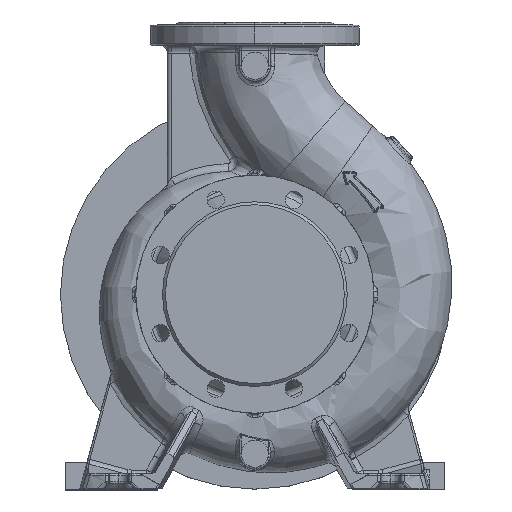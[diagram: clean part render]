
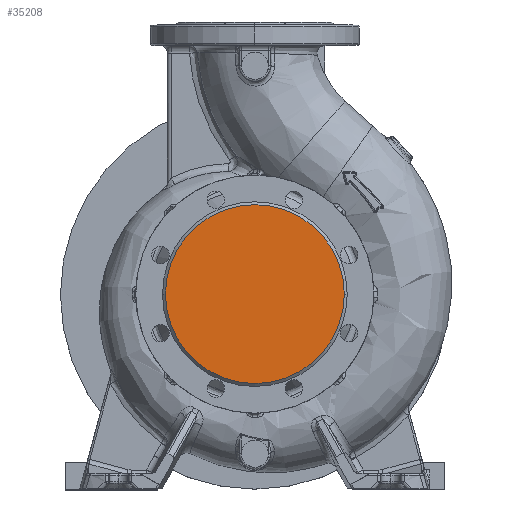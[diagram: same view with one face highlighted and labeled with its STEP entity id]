
A CAD part, top view. The second image highlights one B-rep face of the part: STEP entity #35208.
In plain terms, the highlighted planar face has unit normal (0, 0, 1).
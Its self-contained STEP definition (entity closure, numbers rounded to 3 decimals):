
#652 = DIRECTION ( 'NONE',  ( 0., 0., 1. ) ) ;
#2620 = AXIS2_PLACEMENT_3D ( 'NONE', #29247, #79129, #37023 ) ;
#4676 = DIRECTION ( 'NONE',  ( 0., 0., 1. ) ) ;
#6614 = CIRCLE ( 'NONE', #2620, 92. ) ;
#9255 = CARTESIAN_POINT ( 'NONE',  ( 92., 0., 125. ) ) ;
#9902 = CIRCLE ( 'NONE', #54368, 92. ) ;
#29247 = CARTESIAN_POINT ( 'NONE',  ( 0., 0., 125. ) ) ;
#35208 = ADVANCED_FACE ( 'NONE', ( #55734 ), #76036, .T. ) ;
#37023 = DIRECTION ( 'NONE',  ( 1., 0., 0. ) ) ;
#39593 = VERTEX_POINT ( 'NONE', #45322 ) ;
#45322 = CARTESIAN_POINT ( 'NONE',  ( -92., 0., 125. ) ) ;
#49193 = CARTESIAN_POINT ( 'NONE',  ( 0., 0., 125. ) ) ;
#52798 = EDGE_CURVE ( 'NONE', #39593, #82062, #9902, .T. ) ;
#54368 = AXIS2_PLACEMENT_3D ( 'NONE', #49193, #652, #57595 ) ;
#54522 = DIRECTION ( 'NONE',  ( 1., 0., 0. ) ) ;
#55734 = FACE_OUTER_BOUND ( 'NONE', #73372, .T. ) ;
#57595 = DIRECTION ( 'NONE',  ( 1., 0., 0. ) ) ;
#59036 = ORIENTED_EDGE ( 'NONE', *, *, #67591, .T. ) ;
#67591 = EDGE_CURVE ( 'NONE', #82062, #39593, #6614, .T. ) ;
#70311 = ORIENTED_EDGE ( 'NONE', *, *, #52798, .T. ) ;
#73372 = EDGE_LOOP ( 'NONE', ( #70311, #59036 ) ) ;
#76036 = PLANE ( 'NONE',  #80779 ) ;
#79129 = DIRECTION ( 'NONE',  ( 0., 0., 1. ) ) ;
#80779 = AXIS2_PLACEMENT_3D ( 'NONE', #90076, #4676, #54522 ) ;
#82062 = VERTEX_POINT ( 'NONE', #9255 ) ;
#90076 = CARTESIAN_POINT ( 'NONE',  ( 0., 0., 125. ) ) ;
